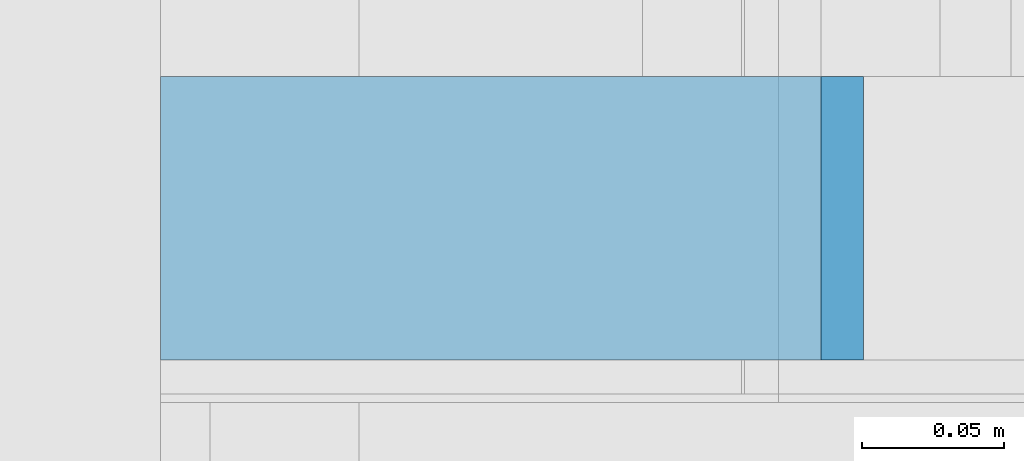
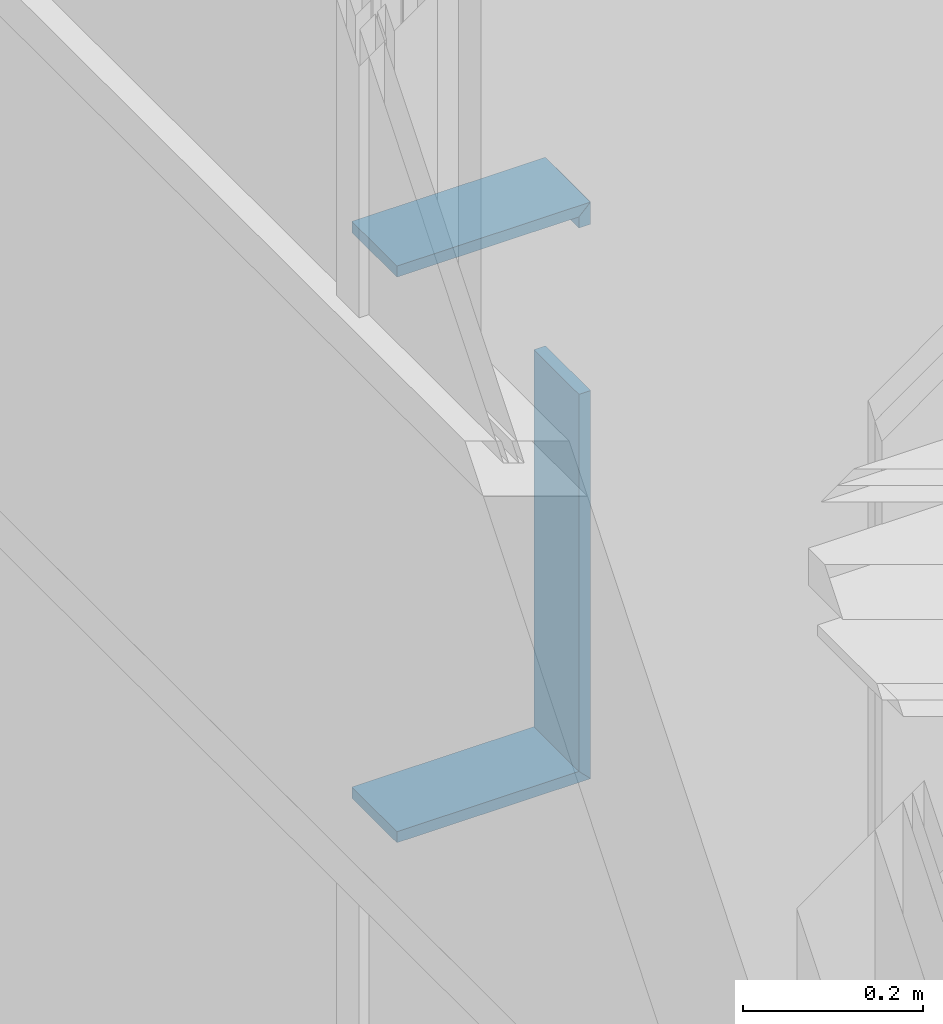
# One storey, part 198 of 583: 4 building element parts, 3 elements without a shape of their own.
"""IFC2X3 building model written with IfcOpenShell, lengths in metres."""

from ifc_helpers import new_model, entity, si_unit, converted_unit, derived_unit, money_unit, direction, frame, origin_with_axes, place, context, subcontext, project, spatial, polyline, outline, extrude, material, type_object, element, aggregate, save


model = new_model("IFC2X3")

# Units and contexts
model_context = context("Model", 3, precision=1e-05, world=origin_with_axes(), true_north=direction((0.0, 1.0)))
body_context = subcontext(model_context, "Body", "Model", "MODEL_VIEW", scale=1.0)
ifc_project = project(units=[si_unit("LENGTHUNIT", "METRE"), si_unit("AREAUNIT", "SQUARE_METRE"), si_unit("VOLUMEUNIT", "CUBIC_METRE"), si_unit("ABSORBEDDOSEUNIT", "GRAY"), si_unit("AMOUNTOFSUBSTANCEUNIT", "MOLE"), si_unit("DOSEEQUIVALENTUNIT", "SIEVERT"), si_unit("ELECTRICCAPACITANCEUNIT", "FARAD"), si_unit("ELECTRICCHARGEUNIT", "COULOMB"), si_unit("ELECTRICCONDUCTANCEUNIT", "SIEMENS"), si_unit("ELECTRICCURRENTUNIT", "AMPERE"), si_unit("ELECTRICRESISTANCEUNIT", "OHM"), si_unit("ELECTRICVOLTAGEUNIT", "VOLT"), si_unit("ENERGYUNIT", "JOULE"), si_unit("FORCEUNIT", "NEWTON"), si_unit("FREQUENCYUNIT", "HERTZ"), si_unit("ILLUMINANCEUNIT", "LUX"), si_unit("INDUCTANCEUNIT", "HENRY"), si_unit("LUMINOUSFLUXUNIT", "LUMEN"), si_unit("LUMINOUSINTENSITYUNIT", "CANDELA"), si_unit("MAGNETICFLUXDENSITYUNIT", "TESLA"), si_unit("MAGNETICFLUXUNIT", "WEBER"), si_unit("MASSUNIT", "GRAM"), converted_unit("PLANEANGLEUNIT", "degree", entity("IfcReal", 0.0174532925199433), si_unit("PLANEANGLEUNIT", "RADIAN"), dimensions=[0, 0, 0, 0, 0, 0, 0]), si_unit("POWERUNIT", "WATT"), si_unit("PRESSUREUNIT", "PASCAL"), si_unit("RADIOACTIVITYUNIT", "BECQUEREL"), si_unit("SOLIDANGLEUNIT", "STERADIAN"), si_unit("THERMODYNAMICTEMPERATUREUNIT", "KELVIN"), si_unit("TIMEUNIT", "SECOND"), derived_unit("ACCELERATIONUNIT", [(si_unit("LENGTHUNIT", "METRE"), 1), (si_unit("TIMEUNIT", "SECOND"), -2)]), derived_unit("ANGULARVELOCITYUNIT", [(converted_unit("PLANEANGLEUNIT", "degree", entity("IfcReal", 0.0174532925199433), si_unit("PLANEANGLEUNIT", "RADIAN"), dimensions=[0, 0, 0, 0, 0, 0, 0]), 1), (si_unit("TIMEUNIT", "SECOND"), -1)]), derived_unit("CURVATUREUNIT", [(converted_unit("PLANEANGLEUNIT", "degree", entity("IfcReal", 0.0174532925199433), si_unit("PLANEANGLEUNIT", "RADIAN"), dimensions=[0, 0, 0, 0, 0, 0, 0]), 1), (si_unit("LENGTHUNIT", "METRE"), -1)]), derived_unit("DYNAMICVISCOSITYUNIT", [(si_unit("PRESSUREUNIT", "PASCAL"), 1), (si_unit("TIMEUNIT", "SECOND"), 1)]), derived_unit("HEATFLUXDENSITYUNIT", [(si_unit("POWERUNIT", "WATT"), 1), (si_unit("LENGTHUNIT", "METRE"), -2)]), derived_unit("HEATINGVALUEUNIT", [(si_unit("ENERGYUNIT", "JOULE"), 1), (si_unit("MASSUNIT", "GRAM"), -1)]), derived_unit("INTEGERCOUNTRATEUNIT", [(si_unit("TIMEUNIT", "SECOND"), -1)]), derived_unit("IONCONCENTRATIONUNIT", [(si_unit("MASSUNIT", "GRAM"), 1), (si_unit("VOLUMEUNIT", "CUBIC_METRE"), -1)]), derived_unit("ISOTHERMALMOISTURECAPACITYUNIT", [(si_unit("VOLUMEUNIT", "CUBIC_METRE"), 1), (si_unit("MASSUNIT", "GRAM"), -1)]), derived_unit("KINEMATICVISCOSITYUNIT", [(si_unit("AREAUNIT", "SQUARE_METRE"), 1), (si_unit("TIMEUNIT", "SECOND"), -1)]), derived_unit("LINEARFORCEUNIT", [(si_unit("FORCEUNIT", "NEWTON"), 1), (si_unit("LENGTHUNIT", "METRE"), -1)]), derived_unit("LINEARMOMENTUNIT", [(si_unit("FORCEUNIT", "NEWTON"), 1), (si_unit("LENGTHUNIT", "METRE"), -1)]), derived_unit("LINEARSTIFFNESSUNIT", [(si_unit("FORCEUNIT", "NEWTON"), 1), (si_unit("LENGTHUNIT", "METRE"), -1)]), derived_unit("LINEARVELOCITYUNIT", [(si_unit("LENGTHUNIT", "METRE"), 1), (si_unit("TIMEUNIT", "SECOND"), -1)]), derived_unit("LUMINOUSINTENSITYDISTRIBUTIONUNIT", [(si_unit("LUMINOUSINTENSITYUNIT", "CANDELA"), 1), (si_unit("LUMINOUSFLUXUNIT", "LUMEN"), -1)]), derived_unit("MASSDENSITYUNIT", [(si_unit("MASSUNIT", "GRAM"), 1), (si_unit("VOLUMEUNIT", "CUBIC_METRE"), -1)]), derived_unit("MASSFLOWRATEUNIT", [(si_unit("MASSUNIT", "GRAM"), 1), (si_unit("TIMEUNIT", "SECOND"), -1)]), derived_unit("MASSPERLENGTHUNIT", [(si_unit("MASSUNIT", "GRAM"), 1), (si_unit("LENGTHUNIT", "METRE"), -1)]), derived_unit("MODULUSOFELASTICITYUNIT", [(si_unit("FORCEUNIT", "NEWTON"), 1), (si_unit("AREAUNIT", "SQUARE_METRE"), -1)]), derived_unit("MODULUSOFLINEARSUBGRADEREACTIONUNIT", [(si_unit("FORCEUNIT", "NEWTON"), 1), (si_unit("LENGTHUNIT", "METRE"), -2)]), derived_unit("MODULUSOFROTATIONALSUBGRADEREACTIONUNIT", [(si_unit("FORCEUNIT", "NEWTON"), 1), (si_unit("LENGTHUNIT", "METRE"), 1)]), derived_unit("MODULUSOFSUBGRADEREACTIONUNIT", [(si_unit("FORCEUNIT", "NEWTON"), 1), (si_unit("VOLUMEUNIT", "CUBIC_METRE"), -1)]), derived_unit("MOISTUREDIFFUSIVITYUNIT", [(si_unit("VOLUMEUNIT", "CUBIC_METRE"), 1), (si_unit("TIMEUNIT", "SECOND"), -1)]), derived_unit("MOLECULARWEIGHTUNIT", [(si_unit("MASSUNIT", "GRAM"), 1), (si_unit("AMOUNTOFSUBSTANCEUNIT", "MOLE"), -1)]), derived_unit("PLANARFORCEUNIT", [(si_unit("FORCEUNIT", "NEWTON"), 1), (si_unit("LENGTHUNIT", "METRE"), -2)]), derived_unit("ROTATIONALFREQUENCYUNIT", [(si_unit("TIMEUNIT", "SECOND"), -1)]), derived_unit("ROTATIONALMASSUNIT", [(si_unit("MASSUNIT", "GRAM"), 1), (si_unit("LENGTHUNIT", "METRE"), 2)]), derived_unit("ROTATIONALSTIFFNESSUNIT", [(si_unit("FORCEUNIT", "NEWTON"), 1), (si_unit("LENGTHUNIT", "METRE"), 1), (converted_unit("PLANEANGLEUNIT", "degree", entity("IfcReal", 0.0174532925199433), si_unit("PLANEANGLEUNIT", "RADIAN"), dimensions=[0, 0, 0, 0, 0, 0, 0]), -1)]), derived_unit("SECTIONAREAINTEGRALUNIT", [(si_unit("LENGTHUNIT", "METRE"), 5)]), derived_unit("SECTIONMODULUSUNIT", [(si_unit("LENGTHUNIT", "METRE"), 3)]), derived_unit("SHEARMODULUSUNIT", [(si_unit("FORCEUNIT", "NEWTON"), 1), (si_unit("AREAUNIT", "SQUARE_METRE"), -1)]), derived_unit("SOUNDPOWERUNIT", [(si_unit("ENERGYUNIT", "JOULE"), 1), (si_unit("TIMEUNIT", "SECOND"), -1)]), derived_unit("SPECIFICHEATCAPACITYUNIT", [(si_unit("FORCEUNIT", "NEWTON"), 1), (si_unit("MASSUNIT", "GRAM"), -1), (si_unit("THERMODYNAMICTEMPERATUREUNIT", "KELVIN"), -1)]), derived_unit("TEMPERATUREGRADIENTUNIT", [(si_unit("THERMODYNAMICTEMPERATUREUNIT", "KELVIN"), 1), (si_unit("LENGTHUNIT", "METRE"), -1)]), derived_unit("THERMALADMITTANCEUNIT", [(si_unit("POWERUNIT", "WATT"), 1), (si_unit("AREAUNIT", "SQUARE_METRE"), -1), (si_unit("THERMODYNAMICTEMPERATUREUNIT", "KELVIN"), -1)]), derived_unit("THERMALCONDUCTANCEUNIT", [(si_unit("POWERUNIT", "WATT"), 1), (si_unit("LENGTHUNIT", "METRE"), -1), (si_unit("THERMODYNAMICTEMPERATUREUNIT", "KELVIN"), -1)]), derived_unit("THERMALEXPANSIONCOEFFICIENTUNIT", [(si_unit("THERMODYNAMICTEMPERATUREUNIT", "KELVIN"), -1)]), derived_unit("THERMALRESISTANCEUNIT", [(si_unit("AREAUNIT", "SQUARE_METRE"), 1), (si_unit("POWERUNIT", "WATT"), -1)]), derived_unit("THERMALTRANSMITTANCEUNIT", [(si_unit("POWERUNIT", "WATT"), 1), (si_unit("AREAUNIT", "SQUARE_METRE"), -1), (si_unit("THERMODYNAMICTEMPERATUREUNIT", "KELVIN"), -1)]), derived_unit("TORQUEUNIT", [(si_unit("FORCEUNIT", "NEWTON"), 1), (si_unit("LENGTHUNIT", "METRE"), 1)]), derived_unit("VAPORPERMEABILITYUNIT", [(si_unit("MASSUNIT", "GRAM"), 1), (si_unit("TIMEUNIT", "SECOND"), -1)]), derived_unit("VOLUMETRICFLOWRATEUNIT", [(si_unit("VOLUMEUNIT", "CUBIC_METRE"), 1), (si_unit("TIMEUNIT", "SECOND"), -1)]), derived_unit("WARPINGCONSTANTUNIT", [(si_unit("LENGTHUNIT", "METRE"), 6)]), derived_unit("WARPINGMOMENTUNIT", [(si_unit("FORCEUNIT", "NEWTON"), 1), (si_unit("LENGTHUNIT", "METRE"), 2)]), money_unit("GBP")], contexts=[model_context])

# Site, building, storey
site_placement = place(None, origin_with_axes())
site = spatial("IfcSite", under=ifc_project, at=site_placement, Name="Site", CompositionType="ELEMENT")
building_placement = place(site_placement, origin_with_axes())
building = spatial("IfcBuilding", under=site, at=building_placement, Name="Building01", CompositionType="ELEMENT")
storey_placement = place(building_placement, frame((0.0, 0.0, 20.78), z_axis=(0.0, 0.0, 1.0), x_axis=(1.0, 0.0, 0.0)))
storey = spatial("IfcBuildingStorey", under=building, at=storey_placement, Name="RL", CompositionType="ELEMENT", Elevation=20.78)

# Wall, building element part
wall_type = type_object("IfcWallType", Name="SHE_A-Walls_Type06f_ExternalWallInsulation_48+15mm", PredefinedType="NOTDEFINED")
wall_1_placement = place(storey_placement, frame((0.27, 8.64, 1.173), z_axis=(0.0, 1.0, 0.0), x_axis=(1.0, 0.0, 0.0)))
wall_1 = element("IfcWall", 1, at=wall_1_placement, inside=storey, type_object=wall_type, Name="6F", ObjectType="SHE_A-Walls_Type06f_ExternalWallInsulation_48+15mm")
ifc_material = material(Name="A_BSUK_Walls_Timber")
building_element_part_1_placement = place(wall_1_placement, origin_with_axes())
building_element_part_1 = element("IfcBuildingElementPart", 2, at=building_element_part_1_placement, material=ifc_material, Name="2", context=body_context, shape_type="SweptSolid", body=[
    extrude(outline(polyline([(-0.17, 0.063), (0.063, 0.063), (0.078, 0.078), (-0.17, 0.078), (-0.17, 0.063)])), frame((0.0, 0.0, 0.015), z_axis=(0.0, 0.0, 1.0), x_axis=(1.0, 0.0, 0.0)), (0.0, 0.0, 1.0), 0.1),
])
aggregate(wall_1, [building_element_part_1])

# Wall, building element parts
wall_2_placement = place(storey_placement, frame((0.27, 8.64, 1.833124), z_axis=(0.0, 1.0, 0.0), x_axis=(0.0, 0.0, 1.0)))
wall_2 = element("IfcWall", 3, at=wall_2_placement, inside=storey, type_object=wall_type, Name="6F", ObjectType="SHE_A-Walls_Type06f_ExternalWallInsulation_48+15mm")
placement = place(wall_2_placement, origin_with_axes())
building_element_part_2 = element("IfcBuildingElementPart", 4, at=placement, material=ifc_material, Name="2", context=body_context, shape_type="SweptSolid", body=[
    extrude(outline(polyline([(0.027, 0.063), (0.042, 0.078), (0.011876, 0.078), (0.011876, 0.063), (0.027, 0.063)])), frame((0.0, 0.0, 0.015), z_axis=(0.0, 0.0, 1.0), x_axis=(1.0, 0.0, 0.0)), (0.0, 0.0, 1.0), 0.1),
])
building_element_part_3 = element("IfcBuildingElementPart", 5, at=placement, material=ifc_material, Name="4", context=body_context, shape_type="SweptSolid", body=[
    extrude(outline(polyline([(-0.723124, 0.063), (-0.213124, 0.063), (-0.213124, 0.078), (-0.738124, 0.078), (-0.723124, 0.063)])), frame((0.0, 0.0, 0.015), z_axis=(0.0, 0.0, 1.0), x_axis=(1.0, 0.0, 0.0)), (0.0, 0.0, 1.0), 0.1),
])
aggregate(wall_2, [building_element_part_2, building_element_part_3])

# Wall, building element part
wall_3_placement = place(storey_placement, frame((0.27, 8.64, 1.797124), z_axis=(0.0, 1.0, 0.0), x_axis=(1.0, 0.0, 0.0)))
wall_3 = element("IfcWall", 6, at=wall_3_placement, inside=storey, type_object=wall_type, Name="6F", ObjectType="SHE_A-Walls_Type06f_ExternalWallInsulation_48+15mm")
building_element_part_4_placement = place(wall_3_placement, origin_with_axes())
building_element_part_4 = element("IfcBuildingElementPart", 7, at=building_element_part_4_placement, material=ifc_material, Name="3", context=body_context, shape_type="SweptSolid", body=[
    extrude(outline(polyline([(-0.17, -0.078), (0.078, -0.078), (0.063, -0.063), (-0.17, -0.063), (-0.17, -0.078)])), frame((0.0, 0.0, 0.015), z_axis=(0.0, 0.0, 1.0), x_axis=(1.0, 0.0, 0.0)), (0.0, 0.0, 1.0), 0.1),
])
aggregate(wall_3, [building_element_part_4])

save(model, "model.ifc")
